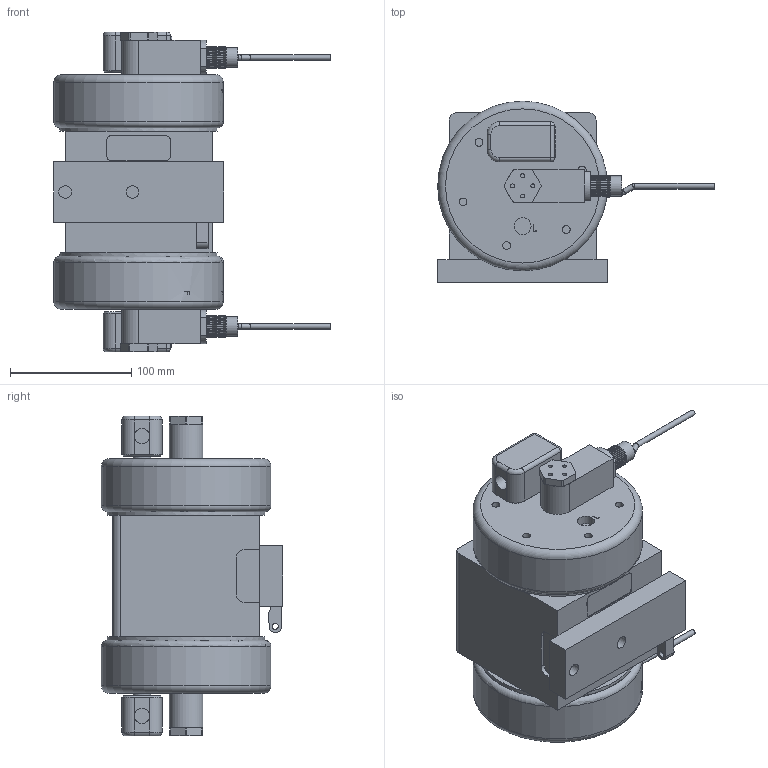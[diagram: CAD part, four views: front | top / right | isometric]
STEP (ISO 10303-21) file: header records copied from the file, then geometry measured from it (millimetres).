
FILE_DESCRIPTION (( 'STEP AP214' ), '1' );
FILE_NAME ('PXU030_solid model.STEP', '2013-07-24T21:53:02', ( '' ), ( '' ), 'SwSTEP 2.0', 'SolidWorks 2012', '' );
FILE_SCHEMA (( 'AUTOMOTIVE_DESIGN' ));
Length unit declared in the file: inch
Products named in the file (1): PXU030_solid model
Bounding box: 228.02 x 149.4 x 263.49 mm (x, y, z)
Volume: 3195126.2 mm3; surface area: 186441.3 mm2
Topology: 1 solids, 5 shells, 1185 faces, 2952 edges, 1917 vertices
Faces by surface type: plane 810, cylinder 144, bspline 125, cone 88, torus 14, sphere 4
Full cylindrical faces by diameter (mm): 3.175 x4, 3.251 x24, 3.302 x4, 4.445 x7, 4.902 x1, 6.477 x12, 10.312 x2, 12.725 x2, 13.934 x2, 14.656 x2, 15.938 x1, 16.408 x2, 16.701 x1, 22.225 x2, 22.25 x2, 25.19 x2, 38.1 x1, 129.819 x2, 139.7 x2
Entity records: 41788 total; most frequent: CARTESIAN_POINT 13269, ORIENTED_EDGE 5544, DIRECTION 5084, EDGE_CURVE 2772, LINE 2070, VECTOR 2070, VERTEX_POINT 1900, AXIS2_PLACEMENT_3D 1507
